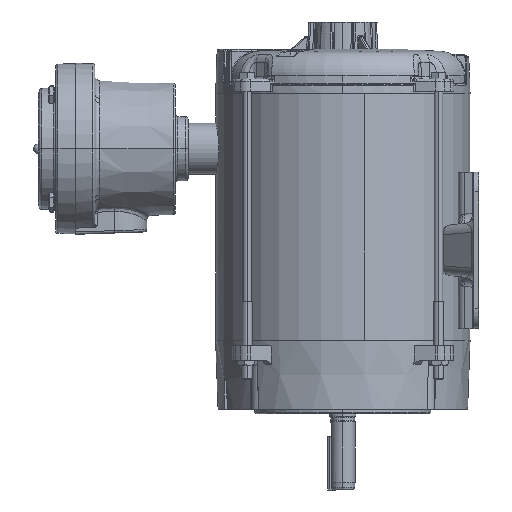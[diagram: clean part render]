
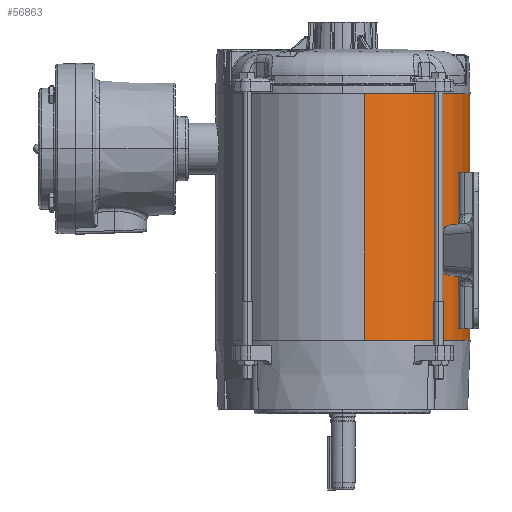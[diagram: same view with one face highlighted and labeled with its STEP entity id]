
A CAD part, left-side view. The second image highlights one B-rep face of the part: STEP entity #56863.
In plain terms, the highlighted cylindrical face has radius 82.413 mm (diameter 164.826 mm), a partial arc.
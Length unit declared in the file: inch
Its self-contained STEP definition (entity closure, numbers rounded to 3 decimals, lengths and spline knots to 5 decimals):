
#785 = VERTEX_POINT ( 'NONE', #81892 ) ;
#2353 = CARTESIAN_POINT ( 'NONE',  ( 0., 0., 3.155 ) ) ;
#10848 = CIRCLE ( 'NONE', #94001, 3.2446 ) ;
#13164 = VECTOR ( 'NONE', #45770, 39.37008 ) ;
#13702 = DIRECTION ( 'NONE',  ( 1., 0., 0. ) ) ;
#20184 = LINE ( 'NONE', #89501, #13164 ) ;
#21536 = ORIENTED_EDGE ( 'NONE', *, *, #90446, .T. ) ;
#26881 = AXIS2_PLACEMENT_3D ( 'NONE', #95227, #27949, #106468 ) ;
#27949 = DIRECTION ( 'NONE',  ( 0., 0., 1. ) ) ;
#29954 = VERTEX_POINT ( 'NONE', #75753 ) ;
#40174 = DIRECTION ( 'NONE',  ( -0.985, -0.174, 0. ) ) ;
#45770 = DIRECTION ( 'NONE',  ( 0., 0., -1. ) ) ;
#50063 = VERTEX_POINT ( 'NONE', #91308 ) ;
#51511 = CARTESIAN_POINT ( 'NONE',  ( 0., 0., 24.23654 ) ) ;
#55777 = EDGE_CURVE ( 'NONE', #785, #50063, #20184, .T. ) ;
#56863 = ADVANCED_FACE ( 'NONE', ( #121912 ), #85079, .T. ) ;
#57338 = ORIENTED_EDGE ( 'NONE', *, *, #84264, .T. ) ;
#57814 = ORIENTED_EDGE ( 'NONE', *, *, #108068, .T. ) ;
#71626 = VERTEX_POINT ( 'NONE', #72438 ) ;
#72438 = CARTESIAN_POINT ( 'NONE',  ( 0.5624, -3.19549, -3.155 ) ) ;
#75753 = CARTESIAN_POINT ( 'NONE',  ( 0.5624, -3.19549, 3.155 ) ) ;
#81037 = DIRECTION ( 'NONE',  ( 0., 0., -1. ) ) ;
#81892 = CARTESIAN_POINT ( 'NONE',  ( -3.19531, -0.56342, 3.155 ) ) ;
#84264 = EDGE_CURVE ( 'NONE', #29954, #785, #10848, .T. ) ;
#85079 = CYLINDRICAL_SURFACE ( 'NONE', #118413, 3.2446 ) ;
#89501 = CARTESIAN_POINT ( 'NONE',  ( -3.19531, -0.56342, 24.23654 ) ) ;
#90446 = EDGE_CURVE ( 'NONE', #50063, #71626, #99650, .T. ) ;
#91308 = CARTESIAN_POINT ( 'NONE',  ( -3.19531, -0.56342, -3.155 ) ) ;
#94001 = AXIS2_PLACEMENT_3D ( 'NONE', #2353, #81037, #13702 ) ;
#95227 = CARTESIAN_POINT ( 'NONE',  ( 0., 0., -3.155 ) ) ;
#96127 = DIRECTION ( 'NONE',  ( 0., 0., -1. ) ) ;
#99650 = CIRCLE ( 'NONE', #26881, 3.2446 ) ;
#106374 = ORIENTED_EDGE ( 'NONE', *, *, #55777, .T. ) ;
#106468 = DIRECTION ( 'NONE',  ( -1., 0., 0. ) ) ;
#108068 = EDGE_CURVE ( 'NONE', #71626, #29954, #143050, .T. ) ;
#112294 = CARTESIAN_POINT ( 'NONE',  ( 0.5624, -3.19549, 24.23654 ) ) ;
#114712 = DIRECTION ( 'NONE',  ( 0., 0., 1. ) ) ;
#118413 = AXIS2_PLACEMENT_3D ( 'NONE', #51511, #96127, #40174 ) ;
#121912 = FACE_OUTER_BOUND ( 'NONE', #130356, .T. ) ;
#130356 = EDGE_LOOP ( 'NONE', ( #57338, #106374, #21536, #57814 ) ) ;
#135988 = VECTOR ( 'NONE', #114712, 39.37008 ) ;
#143050 = LINE ( 'NONE', #112294, #135988 ) ;
